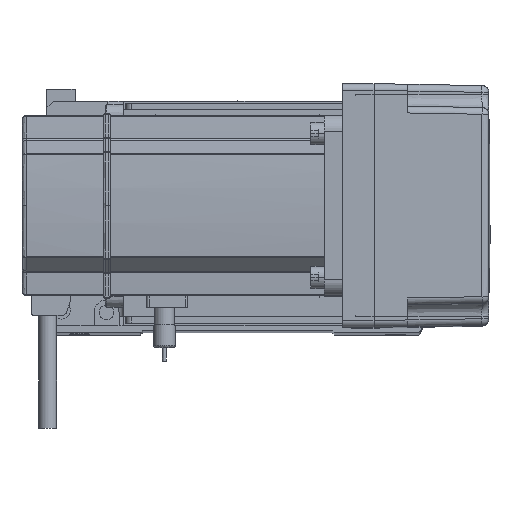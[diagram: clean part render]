
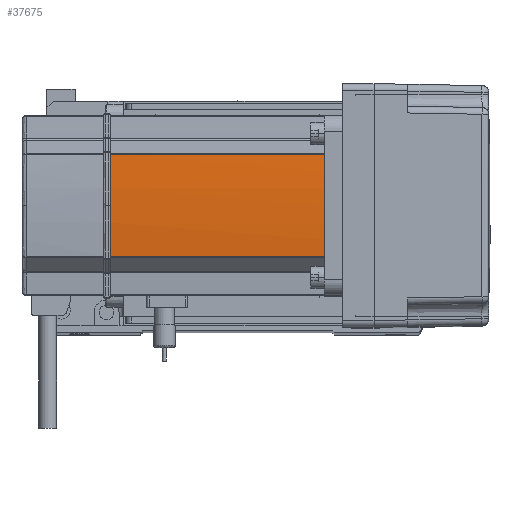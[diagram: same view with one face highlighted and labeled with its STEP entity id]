
A CAD part, top view. The second image highlights one B-rep face of the part: STEP entity #37675.
In plain terms, the highlighted cylindrical face has radius 270 mm (diameter 540 mm), a partial arc.
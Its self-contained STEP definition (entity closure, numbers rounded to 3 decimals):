
#90 = ORIENTED_EDGE ( 'NONE', *, *, #54606, .T. ) ;
#3387 = CARTESIAN_POINT ( 'NONE',  ( 230., 0., 39. ) ) ;
#3947 = CYLINDRICAL_SURFACE ( 'NONE', #18751, 270. ) ;
#4570 = VERTEX_POINT ( 'NONE', #28801 ) ;
#5313 = EDGE_CURVE ( 'NONE', #23516, #47230, #19862, .T. ) ;
#9153 = DIRECTION ( 'NONE',  ( 0., 0., -1. ) ) ;
#9700 = CARTESIAN_POINT ( 'NONE',  ( -39.042, -22.724, 134. ) ) ;
#9872 = AXIS2_PLACEMENT_3D ( 'NONE', #3387, #42245, #16218 ) ;
#10081 = LINE ( 'NONE', #39935, #16855 ) ;
#10818 = DIRECTION ( 'NONE',  ( 1., 0., 0. ) ) ;
#11056 = VECTOR ( 'NONE', #49030, 1000. ) ;
#11972 = VERTEX_POINT ( 'NONE', #9700 ) ;
#13956 = EDGE_CURVE ( 'NONE', #11972, #4570, #41832, .T. ) ;
#14137 = ORIENTED_EDGE ( 'NONE', *, *, #13956, .T. ) ;
#14228 = DIRECTION ( 'NONE',  ( 1., 0., 0. ) ) ;
#14441 = CARTESIAN_POINT ( 'NONE',  ( -39.042, -22.724, 0. ) ) ;
#14598 = DIRECTION ( 'NONE',  ( 0., 0., -1. ) ) ;
#15181 = VERTEX_POINT ( 'NONE', #18936 ) ;
#15741 = CARTESIAN_POINT ( 'NONE',  ( 230., 0., 0. ) ) ;
#16218 = DIRECTION ( 'NONE',  ( 1., 0., 0. ) ) ;
#16855 = VECTOR ( 'NONE', #9153, 1000. ) ;
#18751 = AXIS2_PLACEMENT_3D ( 'NONE', #15741, #36812, #10818 ) ;
#18936 = CARTESIAN_POINT ( 'NONE',  ( -39.042, 22.724, 134. ) ) ;
#19749 = DIRECTION ( 'NONE',  ( 1., 0., 0. ) ) ;
#19862 = CIRCLE ( 'NONE', #9872, 270. ) ;
#23050 = FACE_OUTER_BOUND ( 'NONE', #23439, .T. ) ;
#23439 = EDGE_LOOP ( 'NONE', ( #14137, #90, #45962, #38684, #32585 ) ) ;
#23516 = VERTEX_POINT ( 'NONE', #38957 ) ;
#28486 = DIRECTION ( 'NONE',  ( 0., 0., -1. ) ) ;
#28801 = CARTESIAN_POINT ( 'NONE',  ( -40., 0., 134. ) ) ;
#30061 = LINE ( 'NONE', #14441, #11056 ) ;
#32585 = ORIENTED_EDGE ( 'NONE', *, *, #34639, .T. ) ;
#34639 = EDGE_CURVE ( 'NONE', #23516, #11972, #30061, .T. ) ;
#36153 = CIRCLE ( 'NONE', #44570, 270. ) ;
#36812 = DIRECTION ( 'NONE',  ( 0., 0., 1. ) ) ;
#37675 = ADVANCED_FACE ( 'NONE', ( #23050 ), #3947, .T. ) ;
#38684 = ORIENTED_EDGE ( 'NONE', *, *, #5313, .F. ) ;
#38957 = CARTESIAN_POINT ( 'NONE',  ( -39.042, -22.724, 39. ) ) ;
#39935 = CARTESIAN_POINT ( 'NONE',  ( -39.042, 22.724, 0. ) ) ;
#41832 = CIRCLE ( 'NONE', #53879, 270. ) ;
#42245 = DIRECTION ( 'NONE',  ( 0., 0., -1. ) ) ;
#43579 = CARTESIAN_POINT ( 'NONE',  ( -39.042, 22.724, 39. ) ) ;
#44570 = AXIS2_PLACEMENT_3D ( 'NONE', #53356, #14598, #14228 ) ;
#45830 = CARTESIAN_POINT ( 'NONE',  ( 230., 0., 134. ) ) ;
#45962 = ORIENTED_EDGE ( 'NONE', *, *, #51406, .T. ) ;
#47230 = VERTEX_POINT ( 'NONE', #43579 ) ;
#49030 = DIRECTION ( 'NONE',  ( 0., 0., 1. ) ) ;
#51406 = EDGE_CURVE ( 'NONE', #15181, #47230, #10081, .T. ) ;
#53356 = CARTESIAN_POINT ( 'NONE',  ( 230., 0., 134. ) ) ;
#53879 = AXIS2_PLACEMENT_3D ( 'NONE', #45830, #28486, #19749 ) ;
#54606 = EDGE_CURVE ( 'NONE', #4570, #15181, #36153, .T. ) ;
